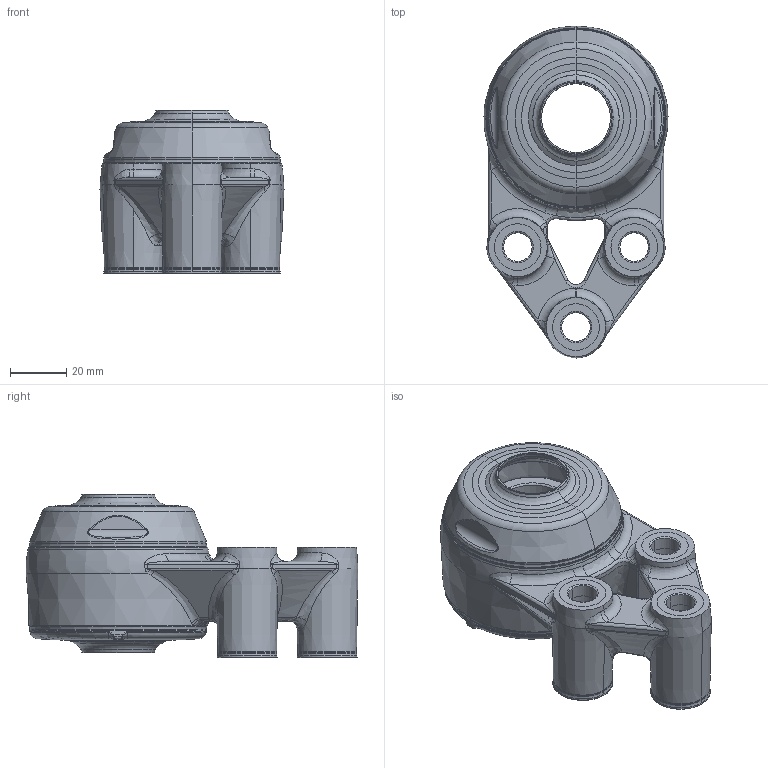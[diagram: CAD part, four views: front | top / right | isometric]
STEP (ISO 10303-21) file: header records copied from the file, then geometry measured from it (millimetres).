
FILE_DESCRIPTION (( 'STEP AP203' ), '1' );
FILE_NAME ('XB3FC52(White)-CSB2500(Front)-OM(Blue)-OS(White)_Shell.step', '2020-09-24T12:45:58', ( '' ), ( '' ), 'SwSTEP 2.0', 'SolidWorks 2019', '' );
FILE_SCHEMA (( 'CONFIG_CONTROL_DESIGN' ));
Length unit declared in the file: millimetre
Products named in the file (1): XB3FC52(White)-CSB2500(Front)-OM(Blue)-OS(White)_Shell
Bounding box: 65.6 x 118.34 x 58.14 mm (x, y, z)
Surface area: 43153.1 mm2 (no closed solid volume)
Topology: 0 solids, 38 shells, 515 faces, 1882 edges, 1375 vertices
Faces by surface type: bspline 188, cone 92, torus 89, cylinder 71, plane 45, sphere 30
Entity records: 33516 total; most frequent: CARTESIAN_POINT 19946, ORIENTED_EDGE 2912, DIRECTION 2200, EDGE_CURVE 1878, VERTEX_POINT 1375, AXIS2_PLACEMENT_3D 996, B_SPLINE_CURVE_WITH_KNOTS 979, CIRCLE 668
